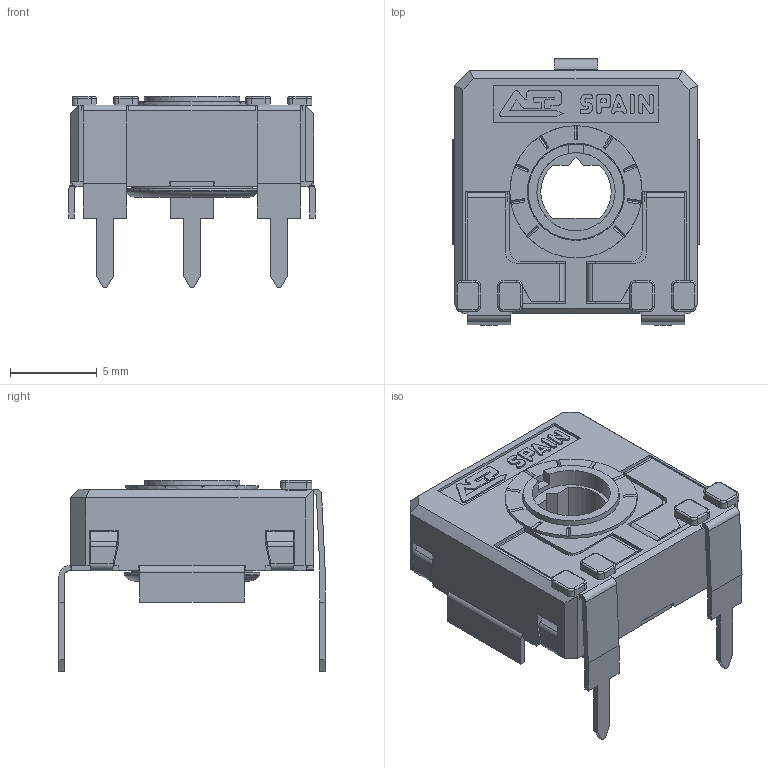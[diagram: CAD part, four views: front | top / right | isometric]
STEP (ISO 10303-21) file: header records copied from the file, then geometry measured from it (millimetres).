
FILE_DESCRIPTION(/* description */ (''),/* implementation_level */ '2;1');
FILE_NAME(/* name */ 'COMCA14KV15 CFF.stp',/* time_stamp */ '2026-04-01T16:56:12+02:00',/* author */ ('CEM'),/* organization */ (''),/* preprocessor_version */ 'ST-DEVELOPER v20.1',/* originating_system */ 'Autodesk Inventor 2026',/* authorisation */ '');
FILE_SCHEMA (('AUTOMOTIVE_DESIGN { 1 0 10303 214 3 1 1 }'));
Length unit declared in the file: millimetre
Products named in the file (1): CARCASA CA14 PGA
Bounding box: 14.15 x 15.3 x 11 mm (x, y, z)
Volume: 542.3 mm3; surface area: 1541 mm2
Topology: 1 solids, 1 shells, 687 faces, 1938 edges, 1247 vertices
Faces by surface type: plane 507, cylinder 143, torus 23, bspline 8, cone 6
Full cylindrical faces by diameter (mm): 4.5 x1, 5.5 x1, 5.6 x1, 5.752 x1, 6.8 x1, 7.6 x1
Entity records: 22425 total; most frequent: CARTESIAN_POINT 4170, ORIENTED_EDGE 3876, DIRECTION 3618, EDGE_CURVE 1938, LINE 1528, VECTOR 1528, VERTEX_POINT 1247, AXIS2_PLACEMENT_3D 1045
